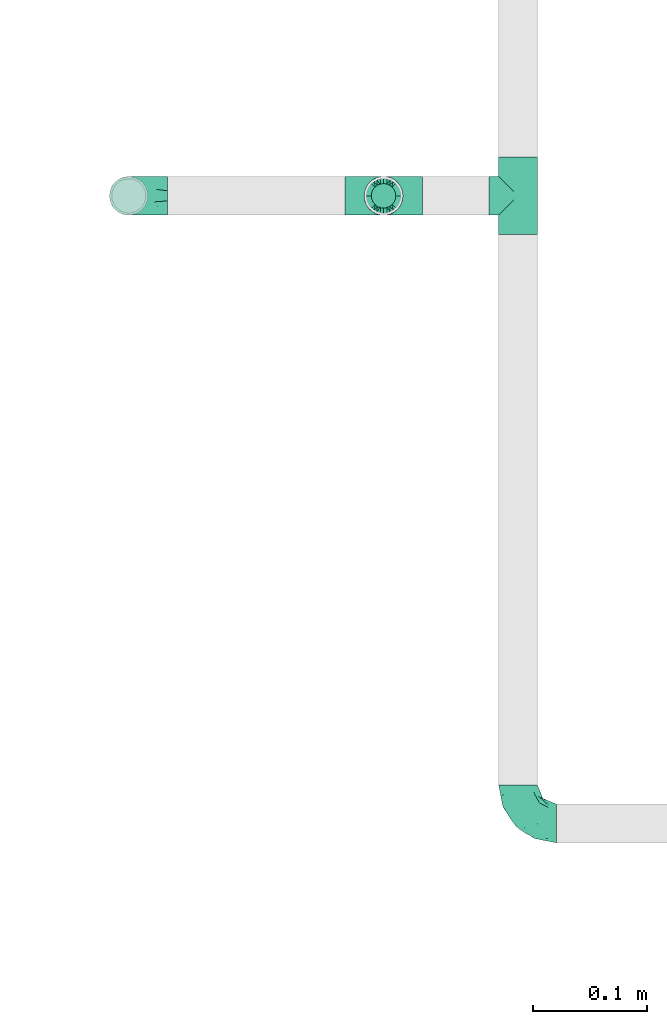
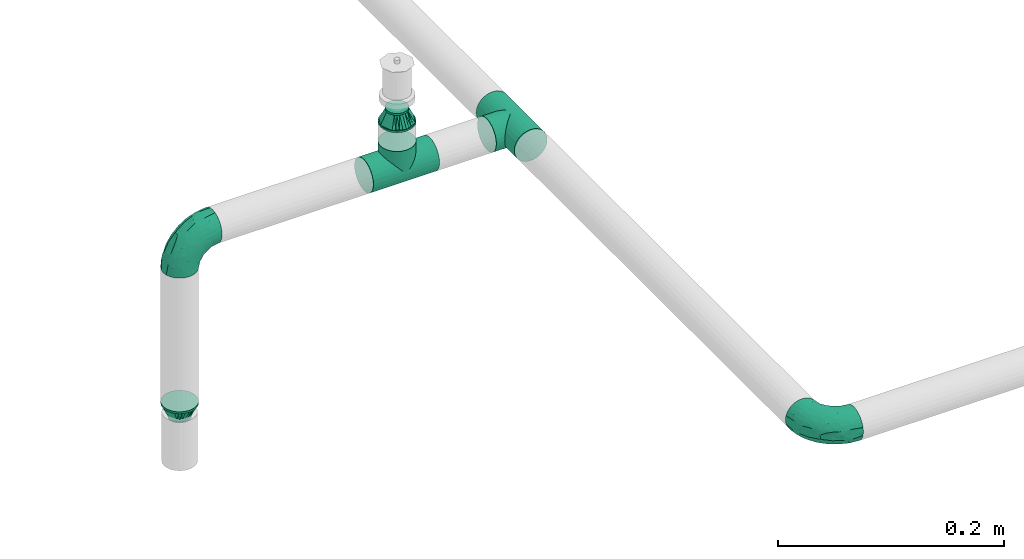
# One storey, part 136 of 157: 6 flow fittings.
"""IFC2X3 building model written with IfcOpenShell, lengths in millimetres."""

from ifc_helpers import new_model, entity, si_unit, converted_unit, derived_unit, direction, frame, origin_with_axes, place, context, subcontext, project, spatial, open_shell, surface_model, source, transform, mapped, type_object, element, save


model = new_model("IFC2X3")

# Units and contexts
model_context = context("Model", 3, precision=0.01, world=frame((0.0, 4.29681676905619e-09, 0.0)), true_north=direction((4.01073788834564e-13, 1.0)))
plan_context = context("Plan", 3, precision=0.01, world=frame((0.0, 4.29681676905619e-09, 0.0)), true_north=direction((4.01073788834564e-13, 1.0)))
body_context = subcontext(model_context, "Body", "Model", "MODEL_VIEW")
ifc_project = project(units=[converted_unit("PLANEANGLEUNIT", "DEGREE", entity("IfcPositiveLengthMeasure", 0.0174532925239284), si_unit("PLANEANGLEUNIT", "RADIAN"), dimensions=[0, 0, 0, 0, 0, 0, 0]), si_unit("AREAUNIT", "SQUARE_METRE"), si_unit("LENGTHUNIT", "METRE", prefix="MILLI"), si_unit("MASSUNIT", "GRAM", prefix="KILO"), si_unit("POWERUNIT", "WATT"), si_unit("PRESSUREUNIT", "PASCAL"), si_unit("FORCEUNIT", "NEWTON", prefix="KILO"), si_unit("ELECTRICCURRENTUNIT", "AMPERE"), si_unit("THERMODYNAMICTEMPERATUREUNIT", "DEGREE_CELSIUS"), si_unit("TIMEUNIT", "SECOND"), si_unit("VOLUMEUNIT", "CUBIC_METRE"), derived_unit("LINEARVELOCITYUNIT", [(si_unit("LENGTHUNIT", "METRE"), 1), (si_unit("TIMEUNIT", "SECOND"), -1)]), derived_unit("VOLUMETRICFLOWRATEUNIT", [(si_unit("VOLUMEUNIT", "CUBIC_METRE"), 1), (si_unit("TIMEUNIT", "SECOND"), -1)]), derived_unit("THERMALTRANSMITTANCEUNIT", [(si_unit("POWERUNIT", "WATT"), 1), (si_unit("THERMODYNAMICTEMPERATUREUNIT", "KELVIN"), -1), (si_unit("AREAUNIT", "SQUARE_METRE"), -1)])], contexts=[model_context, plan_context])

# Site, building, storey
site_placement = place(None, frame((0.0, -4.29681676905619e-09, 0.0), z_axis=(0.0, 0.0, 1.0), x_axis=(1.0, 0.0, 0.0)))
site = spatial("IfcSite", under=ifc_project, at=site_placement, CompositionType="ELEMENT")
building_placement = place(site_placement, frame((0.0, 4.29681676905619e-09, 0.0), z_axis=(0.0, 0.0, 1.0), x_axis=(1.0, 0.0, 0.0)))
building = spatial("IfcBuilding", under=site, at=building_placement, Name="mc-building", CompositionType="ELEMENT")
storey_placement = place(building_placement, frame((0.0, 0.0, 204000.0), z_axis=(0.0, 0.0, 1.0), x_axis=(1.0, 0.0, 0.0)))
storey = spatial("IfcBuildingStorey", under=building, at=storey_placement, Name="Nivå D", CompositionType="ELEMENT", Elevation=204000.0)

# Flow fittings
pipe_fitting_type_1 = type_object("IfcPipeFittingType", Name="magi_pipe_fe_tee_centric_90_NOR", PredefinedType="JUNCTION")
shared_shape_1 = source(origin_with_axes(), body_context, "Body", "SurfaceModel", [
    surface_model("IfcShellBasedSurfaceModel", [(-33.8, 4.37404, -16.32415), (-33.8, 0.0, -16.9), (-33.8, 16.32415, -4.37404), (-33.8, 8.45, -14.63583), (-33.8, 11.9501, -11.9501), (-33.8, 14.63583, -8.45), (-33.8, -16.9, 0.0), (-33.8, -11.9501, -11.9501), (-33.8, -14.63583, -8.45), (-33.8, -8.45, -14.63583), (-33.8, -4.37404, -16.32415), (-33.8, -16.32415, -4.37404), (-33.8, 14.63583, 8.45), (-33.8, 16.32415, 4.37404), (-33.8, -8.45, 14.63583), (-33.8, 8.45, 14.63583), (-33.8, 11.9501, 11.9501), (-33.8, 4.37404, 16.32415), (-33.8, 0.0, 16.9), (-33.8, -11.9501, 11.9501), (-33.8, -14.63583, 8.45), (-33.8, -16.32415, 4.37404), (-33.8, -4.37404, 16.32415), (-33.8, 16.9, 0.0), (33.8, 4.37404, -16.32415), (33.8, -16.9, 0.0), (33.8, 0.0, -16.9), (33.8, 14.63583, -8.45), (33.8, 8.45, -14.63583), (33.8, 16.32415, -4.37404), (33.8, 11.9501, -11.9501), (33.8, -16.32415, 4.37404), (33.8, -8.45, -14.63583), (33.8, -4.37404, -16.32415), (33.8, -11.9501, -11.9501), (33.8, -14.63583, -8.45), (33.8, -16.32415, -4.37404), (33.8, 16.32415, 4.37404), (33.8, 8.45, 14.63583), (33.8, 14.63583, 8.45), (33.8, 11.9501, 11.9501), (33.8, -8.45, 14.63583), (33.8, 4.37404, 16.32415), (33.8, -14.63583, 8.45), (33.8, -11.9501, 11.9501), (33.8, 0.0, 16.9), (33.8, -4.37404, 16.32415), (33.8, 16.9, 0.0), (16.28698, -16.28698, 4.51047), (16.9, -16.9, 0.0), (14.62704, -14.62704, 8.4652), (9.47213, -9.47213, 13.99602), (12.26343, -12.26343, 11.62834), (-16.9, -16.9, 0.0), (-16.28698, -16.28698, 4.51047), (-14.62704, -14.62704, 8.4652), (-12.26343, -12.26343, 11.62834), (-9.47213, -9.47213, 13.99602), (-6.42894, -6.42894, 15.62942), (6.42894, -6.42894, 15.62942), (3.24522, -3.24522, 16.58549), (0.0, 0.0, 16.9), (-3.24522, -3.24522, 16.58549), (3.24522, -3.24522, -16.58549), (0.0, 0.0, -16.9), (-3.24522, -3.24522, -16.58549), (-6.42894, -6.42894, -15.62942), (6.42894, -6.42894, -15.62942), (9.47213, -9.47213, -13.99602), (12.26343, -12.26343, -11.62834), (14.62704, -14.62704, -8.4652), (16.28698, -16.28698, -4.51047), (-9.47213, -9.47213, -13.99602), (-12.26343, -12.26343, -11.62834), (-16.28698, -16.28698, -4.51047), (-14.62704, -14.62704, -8.4652), (4.37404, -25.35, -16.32415), (-16.9, -25.35, 0.0), (0.0, -25.35, -16.9), (14.63583, -25.35, -8.45), (8.45, -25.35, -14.63583), (16.32415, -25.35, -4.37404), (11.9501, -25.35, -11.9501), (-11.9501, -25.35, -11.9501), (-8.45, -25.35, -14.63583), (-4.37404, -25.35, -16.32415), (-14.63583, -25.35, -8.45), (-16.32415, -25.35, -4.37404), (16.9, -25.35, 0.0), (8.45, -25.35, 14.63583), (16.32415, -25.35, 4.37404), (14.63583, -25.35, 8.45), (-8.45, -25.35, 14.63583), (11.9501, -25.35, 11.9501), (4.37404, -25.35, 16.32415), (-16.32415, -25.35, 4.37404), (-11.9501, -25.35, 11.9501), (-14.63583, -25.35, 8.45), (0.0, -25.35, 16.9), (-4.37404, -25.35, 16.32415)], [open_shell([[[0, 1, 2]], [[3, 0, 4]], [[0, 2, 5]], [[4, 0, 5]], [[6, 2, 1]], [[7, 8, 9]], [[1, 10, 9]], [[11, 6, 8]], [[1, 9, 8]], [[1, 8, 6]], [[6, 12, 2]], [[12, 13, 2]], [[14, 12, 6]], [[12, 14, 15]], [[16, 12, 15]], [[17, 15, 18]], [[19, 14, 20]], [[21, 20, 14]], [[22, 18, 14]], [[14, 6, 21]], [[14, 18, 15]], [[23, 2, 13]], [[24, 25, 26]], [[27, 24, 28]], [[27, 29, 24]], [[27, 28, 30]], [[31, 25, 24]], [[26, 32, 33]], [[26, 34, 32]], [[35, 25, 36]], [[35, 34, 26]], [[25, 35, 26]], [[24, 29, 31]], [[29, 37, 38]], [[38, 37, 39]], [[38, 31, 29]], [[38, 39, 40]], [[41, 38, 42]], [[43, 41, 44]], [[41, 43, 31]], [[41, 45, 46]], [[41, 31, 38]], [[42, 45, 41]], [[29, 47, 37]], [[31, 43, 48]], [[25, 31, 49]], [[49, 31, 48]], [[43, 50, 48]], [[44, 41, 51]], [[50, 43, 52]], [[51, 52, 44]], [[52, 43, 44]], [[53, 54, 21]], [[53, 21, 6]], [[21, 54, 20]], [[54, 55, 20]], [[56, 57, 19]], [[19, 20, 56]], [[19, 57, 14]], [[56, 20, 55]], [[14, 57, 58]], [[51, 41, 59]], [[60, 45, 61]], [[59, 46, 60]], [[46, 59, 41]], [[60, 46, 45]], [[61, 45, 42]], [[39, 37, 13]], [[16, 38, 40]], [[12, 40, 39]], [[42, 38, 15]], [[23, 37, 47]], [[62, 61, 18]], [[62, 22, 58]], [[22, 62, 18]], [[58, 22, 14]], [[61, 17, 18]], [[42, 17, 61]], [[15, 17, 42]], [[15, 38, 16]], [[12, 16, 40]], [[13, 12, 39]], [[37, 23, 13]], [[5, 27, 30]], [[23, 47, 29]], [[30, 28, 3]], [[27, 2, 29]], [[26, 33, 63]], [[26, 64, 24]], [[64, 26, 63]], [[28, 24, 0]], [[64, 0, 24]], [[4, 30, 3]], [[2, 27, 5]], [[5, 30, 4]], [[2, 23, 29]], [[65, 66, 10]], [[1, 0, 64]], [[1, 65, 10]], [[66, 9, 10]], [[0, 3, 28]], [[1, 64, 65]], [[63, 33, 67]], [[32, 34, 68]], [[69, 68, 34]], [[35, 70, 69]], [[69, 34, 35]], [[32, 68, 67]], [[36, 25, 49]], [[36, 71, 35]], [[71, 36, 49]], [[35, 71, 70]], [[72, 9, 66]], [[72, 7, 9]], [[7, 72, 73]], [[7, 73, 8]], [[74, 53, 11]], [[75, 74, 8]], [[74, 11, 8]], [[11, 53, 6]], [[75, 8, 73]], [[32, 67, 33]], [[76, 77, 78]], [[79, 76, 80]], [[79, 81, 76]], [[79, 80, 82]], [[77, 76, 81]], [[78, 83, 84]], [[84, 85, 78]], [[86, 77, 87]], [[83, 78, 86]], [[77, 86, 78]], [[81, 88, 77]], [[89, 88, 90]], [[89, 90, 91]], [[92, 77, 89]], [[89, 91, 93]], [[92, 89, 94]], [[95, 96, 97]], [[96, 95, 92]], [[92, 98, 99]], [[95, 77, 92]], [[94, 98, 92]], [[89, 77, 88]], [[77, 95, 53]], [[54, 53, 95]], [[97, 96, 56]], [[96, 92, 57]], [[95, 97, 54]], [[58, 92, 99]], [[55, 54, 97]], [[56, 55, 97]], [[58, 57, 92]], [[98, 61, 62]], [[58, 99, 62]], [[56, 96, 57]], [[62, 99, 98]], [[94, 60, 98]], [[89, 59, 94]], [[91, 90, 48]], [[52, 93, 91]], [[93, 51, 89]], [[49, 90, 88]], [[59, 60, 94]], [[51, 59, 89]], [[49, 48, 90]], [[50, 52, 91]], [[48, 50, 91]], [[51, 93, 52]], [[98, 60, 61]], [[88, 81, 49]], [[71, 49, 81]], [[79, 82, 69]], [[82, 80, 68]], [[81, 79, 71]], [[67, 80, 76]], [[70, 71, 79]], [[69, 70, 79]], [[67, 68, 80]], [[78, 64, 63]], [[67, 76, 63]], [[69, 82, 68]], [[63, 76, 78]], [[85, 65, 78]], [[84, 66, 85]], [[86, 87, 74]], [[86, 73, 83]], [[72, 84, 83]], [[53, 87, 77]], [[66, 65, 85]], [[72, 66, 84]], [[53, 74, 87]], [[75, 73, 86]], [[74, 75, 86]], [[72, 83, 73]], [[78, 65, 64]]])]),
])
for number, where, z_axis, x_axis, name in (
    (1, (522050.72244, 418905.77171, 2689.95572999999), (0.0, -1.0, 0.0), (-1.0, 0.0, 0.0), "magi_pipe_fe_tee_centric_90_NOR"),
    (2, (522168.12782, 418905.77171, 2689.95572999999), (0.0, 0.0, -1.0), (0.0, 1.0, 0.0), "magi_pipe_fe_tee_centric_90_NOR"),
):
    element("IfcFlowFitting", number, at=place(storey_placement, frame(where, z_axis=z_axis, x_axis=x_axis)), inside=storey, type_object=pipe_fitting_type_1, Name=name, context=body_context, shape_type="MappedRepresentation", body=[
        mapped(shared_shape_1, transform((0.0, 0.0, 0.0), scale=1.0)),
    ])
pipe_fitting_type_2 = type_object("IfcPipeFittingType", Name="magi_pipe_fe_reducer_centric_short_NOR", PredefinedType="TRANSITION")
shared_shape_2 = source(origin_with_axes(), body_context, "Body", "SurfaceModel", [
    surface_model("IfcShellBasedSurfaceModel", [(14.4, 5.35, -9.26647), (14.4, 0.0, -10.7), (14.4, 2.76936, -10.33541), (14.4, 10.33541, -2.76936), (14.4, 7.56604, -7.56604), (14.4, -10.33541, -2.76936), (14.4, 9.26647, -5.35), (14.4, 0.0, 10.7), (14.4, -5.35, -9.26647), (14.4, -2.76936, -10.33541), (14.4, -7.56604, -7.56604), (14.4, -9.26647, -5.35), (14.4, 10.7, 0.0), (14.4, 10.33541, 2.76936), (14.4, 9.26647, 5.35), (14.4, 7.56604, 7.56604), (14.4, 2.76936, 10.33541), (14.4, 5.35, 9.26647), (14.4, -10.33541, 2.76936), (14.4, -7.56604, 7.56604), (14.4, -9.26647, 5.35), (14.4, -10.7, 0.0), (14.4, -2.76936, 10.33541), (14.4, -5.35, 9.26647), (12.4, 2.76936, 10.33541), (12.4, -10.33541, -2.76936), (12.4, 0.0, 10.7), (12.4, 5.35, 9.26647), (12.4, 7.56604, 7.56604), (12.4, 9.26647, 5.35), (12.4, 10.33541, 2.76936), (12.4, -10.33541, 2.76936), (12.4, -2.76936, 10.33541), (12.4, -7.56604, 7.56604), (12.4, -5.35, 9.26647), (12.4, -9.26647, 5.35), (12.4, -10.7, 0.0), (12.4, 10.33541, -2.76936), (12.4, 5.35, -9.26647), (12.4, 9.26647, -5.35), (12.4, 7.56604, -7.56604), (12.4, 2.76936, -10.33541), (12.4, -9.26647, -5.35), (12.4, -5.35, -9.26647), (12.4, -7.56604, -7.56604), (12.4, 0.0, -10.7), (12.4, -2.76936, -10.33541), (12.4, 10.7, 0.0), (-2.0, 11.9501, 11.9501), (-2.0, 0.0, 16.9), (-2.0, 4.37404, 16.32415), (-2.0, 8.45, 14.63583), (-2.0, 14.63583, 8.45), (-2.0, 16.32415, 4.37404), (-2.0, -16.32415, 4.37404), (-2.0, -8.45, 14.63583), (-2.0, -14.63583, 8.45), (-2.0, -11.9501, 11.9501), (-2.0, -4.37404, 16.32415), (-2.0, -16.32415, -4.37404), (-2.0, -16.9, 0.0), (-2.0, -8.45, -14.63583), (-2.0, 16.32415, -4.37404), (-2.0, 11.9501, -11.9501), (-2.0, 14.63583, -8.45), (-2.0, 8.45, -14.63583), (-2.0, 4.37404, -16.32415), (-2.0, 0.0, -16.9), (-2.0, -11.9501, -11.9501), (-2.0, -14.63583, -8.45), (-2.0, -4.37404, -16.32415), (-2.0, 16.9, 0.0), (0.0, 4.37404, -16.32415), (0.0, 8.45, -14.63583), (0.0, 11.9501, -11.9501), (0.0, 0.0, -16.9), (0.0, 16.32415, -4.37404), (0.0, 16.32415, 4.37404), (0.0, 14.63583, -8.45), (0.0, -8.45, -14.63583), (0.0, -4.37404, -16.32415), (0.0, -11.9501, -11.9501), (0.0, -16.32415, -4.37404), (0.0, -14.63583, -8.45), (0.0, -16.32415, 4.37404), (0.0, 16.9, 0.0), (0.0, 14.63583, 8.45), (0.0, 11.9501, 11.9501), (0.0, 4.37404, 16.32415), (0.0, 8.45, 14.63583), (0.0, 0.0, 16.9), (0.0, -14.63583, 8.45), (0.0, -16.9, 0.0), (0.0, -8.45, 14.63583), (0.0, -11.9501, 11.9501), (0.0, -4.37404, 16.32415), (12.4, 9.3625, -2.31662), (0.0, 14.42505, -5.97505), (0.0, 15.66253, -2.98753), (12.4, -6.6875, -6.94985), (0.0, -13.18758, -8.96258), (0.0, 2.98753, -15.66253), (12.4, 0.0, -9.26647), (12.4, 6.6875, -6.94985), (0.0, 8.96258, -13.18758), (12.4, -9.3625, -2.31662), (0.0, -15.66253, -2.98753), (0.0, -14.42505, -5.97505), (0.0, 5.97505, -14.42505), (0.0, -2.98753, -15.66253), (0.0, -8.96258, -13.18758), (0.0, 13.18758, -8.96258), (12.4, 8.025, -4.63324), (12.4, -2.675, -9.26647), (12.4, 2.675, -9.26647), (0.0, -5.97505, -14.42505), (12.4, -8.025, -4.63324), (12.4, -9.3625, 2.31662), (0.0, -14.42505, 5.97505), (0.0, -15.66253, 2.98753), (12.4, 6.6875, 6.94985), (0.0, 13.18758, 8.96258), (0.0, -2.98753, 15.66253), (12.4, 0.0, 9.26647), (12.4, -6.6875, 6.94985), (0.0, -8.96258, 13.18758), (12.4, 9.3625, 2.31662), (0.0, 15.66253, 2.98753), (0.0, 14.42505, 5.97505), (0.0, -5.97505, 14.42505), (0.0, 2.98753, 15.66253), (0.0, 8.96258, 13.18758), (0.0, -13.18758, 8.96258), (12.4, -8.025, 4.63324), (12.4, 2.675, 9.26647), (12.4, -2.675, 9.26647), (0.0, 5.97505, 14.42505), (12.4, 8.025, 4.63324)], [open_shell([[[0, 1, 2]], [[3, 0, 4]], [[5, 0, 3]], [[3, 4, 6]], [[7, 5, 3]], [[1, 8, 9]], [[1, 0, 8]], [[10, 5, 11]], [[5, 10, 8]], [[0, 5, 8]], [[3, 12, 13]], [[13, 14, 15]], [[13, 15, 16]], [[7, 3, 16]], [[16, 15, 17]], [[7, 18, 5]], [[18, 19, 20]], [[21, 5, 18]], [[19, 22, 23]], [[22, 19, 18]], [[7, 22, 18]], [[13, 16, 3]], [[24, 25, 26]], [[27, 25, 24]], [[28, 29, 30]], [[28, 25, 27]], [[31, 26, 25]], [[32, 33, 34]], [[33, 32, 31]], [[33, 31, 35]], [[32, 26, 31]], [[31, 25, 36]], [[30, 37, 28]], [[25, 28, 37]], [[38, 37, 39]], [[37, 38, 25]], [[38, 39, 40]], [[41, 25, 38]], [[42, 43, 44]], [[43, 42, 25]], [[43, 45, 46]], [[43, 25, 41]], [[41, 45, 43]], [[37, 30, 47]], [[25, 5, 36]], [[42, 11, 25]], [[8, 44, 43]], [[42, 44, 10]], [[9, 43, 46]], [[25, 11, 5]], [[5, 21, 36]], [[9, 8, 43]], [[10, 44, 8]], [[10, 11, 42]], [[1, 9, 46]], [[46, 45, 1]], [[41, 2, 45]], [[38, 0, 41]], [[6, 40, 39]], [[38, 40, 4]], [[3, 39, 37]], [[38, 4, 0]], [[0, 2, 41]], [[12, 3, 37]], [[6, 39, 3]], [[6, 4, 40]], [[47, 12, 37]], [[45, 2, 1]], [[30, 13, 47]], [[29, 14, 30]], [[17, 28, 27]], [[29, 28, 15]], [[16, 27, 24]], [[30, 14, 13]], [[13, 12, 47]], [[16, 17, 27]], [[15, 28, 17]], [[15, 14, 29]], [[7, 16, 24]], [[24, 26, 7]], [[32, 22, 26]], [[34, 23, 32]], [[20, 33, 35]], [[34, 33, 19]], [[18, 35, 31]], [[34, 19, 23]], [[23, 22, 32]], [[21, 18, 31]], [[20, 35, 18]], [[20, 19, 33]], [[36, 21, 31]], [[26, 22, 7]], [[48, 49, 50]], [[48, 50, 51]], [[48, 52, 53]], [[48, 53, 49]], [[49, 53, 54]], [[55, 56, 57]], [[55, 58, 49]], [[56, 55, 49]], [[49, 54, 56]], [[54, 59, 60]], [[54, 53, 61]], [[53, 62, 63]], [[63, 62, 64]], [[63, 65, 66]], [[61, 53, 63]], [[67, 63, 66]], [[59, 68, 69]], [[68, 59, 61]], [[61, 67, 70]], [[59, 54, 61]], [[63, 67, 61]], [[53, 71, 62]], [[72, 73, 74]], [[75, 72, 74]], [[74, 76, 77]], [[76, 74, 78]], [[74, 77, 79]], [[75, 79, 80]], [[75, 74, 79]], [[81, 82, 83]], [[82, 81, 79]], [[79, 84, 82]], [[77, 76, 85]], [[77, 86, 87]], [[77, 87, 88]], [[88, 84, 79]], [[88, 87, 89]], [[84, 88, 90]], [[90, 91, 84]], [[92, 82, 84]], [[91, 93, 94]], [[91, 90, 93]], [[93, 90, 95]], [[79, 77, 88]], [[59, 82, 60]], [[69, 83, 59]], [[79, 68, 61]], [[69, 68, 81]], [[80, 61, 70]], [[59, 83, 82]], [[82, 92, 60]], [[80, 79, 61]], [[81, 68, 79]], [[81, 83, 69]], [[75, 80, 70]], [[70, 67, 75]], [[66, 72, 67]], [[65, 73, 66]], [[78, 63, 64]], [[65, 63, 74]], [[76, 64, 62]], [[65, 74, 73]], [[73, 72, 66]], [[85, 76, 62]], [[78, 64, 76]], [[78, 74, 63]], [[71, 85, 62]], [[67, 72, 75]], [[53, 77, 71]], [[52, 86, 53]], [[89, 48, 51]], [[52, 48, 87]], [[88, 51, 50]], [[53, 86, 77]], [[77, 85, 71]], [[88, 89, 51]], [[87, 48, 89]], [[87, 86, 52]], [[90, 88, 50]], [[50, 49, 90]], [[58, 95, 49]], [[55, 93, 58]], [[91, 57, 56]], [[55, 57, 94]], [[84, 56, 54]], [[55, 94, 93]], [[93, 95, 58]], [[92, 84, 54]], [[91, 56, 84]], [[91, 94, 57]], [[60, 92, 54]], [[49, 95, 90]], [[27, 34, 47]], [[47, 34, 43]], [[43, 38, 47]], [[43, 34, 36]], [[90, 87, 94]], [[92, 94, 87]], [[87, 74, 92]], [[75, 92, 74]], [[81, 92, 75]], [[74, 87, 85]], [[96, 97, 98]], [[81, 99, 100]], [[101, 102, 75]], [[98, 85, 47]], [[74, 103, 104]], [[104, 103, 38]], [[105, 106, 107]], [[38, 108, 104]], [[102, 109, 75]], [[110, 99, 81]], [[47, 96, 98]], [[103, 111, 112]], [[109, 102, 113]], [[36, 92, 106]], [[102, 101, 114]], [[110, 115, 43]], [[96, 112, 97]], [[107, 116, 105]], [[36, 106, 105]], [[113, 115, 109]], [[43, 115, 113]], [[116, 107, 100]], [[108, 38, 114]], [[111, 103, 74]], [[111, 97, 112]], [[99, 110, 43]], [[116, 100, 99]], [[101, 108, 114]], [[117, 118, 119]], [[87, 120, 121]], [[122, 123, 90]], [[119, 92, 36]], [[94, 124, 125]], [[125, 124, 34]], [[126, 127, 128]], [[34, 129, 125]], [[123, 130, 90]], [[131, 120, 87]], [[36, 117, 119]], [[124, 132, 133]], [[130, 123, 134]], [[47, 85, 127]], [[123, 122, 135]], [[131, 136, 27]], [[117, 133, 118]], [[128, 137, 126]], [[47, 127, 126]], [[134, 136, 130]], [[27, 136, 134]], [[137, 128, 121]], [[129, 34, 135]], [[132, 124, 94]], [[132, 118, 133]], [[120, 131, 27]], [[137, 121, 120]], [[122, 129, 135]]])]),
])
for number, where, z_axis, x_axis, name in (
    (3, (522050.72244, 418905.77171, 2737.70483), (0.0, -1.0, 0.0), (0.0, 0.0, 1.0), "magi_pipe_fe_reducer_centric_short_NOR"),
    (4, (521828.12782, 418905.77171, 2509.35200000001), (0.0, -1.0, 0.0), (0.0, 0.0, -1.0), "magi_pipe_fe_reducer_centric_short_NOR"),
):
    element("IfcFlowFitting", number, at=place(storey_placement, frame(where, z_axis=z_axis, x_axis=x_axis)), inside=storey, type_object=pipe_fitting_type_2, Name=name, context=body_context, shape_type="MappedRepresentation", body=[
        mapped(shared_shape_2, transform((0.0, 0.0, 0.0), scale=1.0)),
    ])
pipe_fitting_type_3 = type_object("IfcPipeFittingType", Name="magi_pipe_fe_elbow_short_001", PredefinedType="BEND")
shared_shape_3 = source(origin_with_axes(), body_context, "Body", "SurfaceModel", [
    surface_model("IfcShellBasedSurfaceModel", [(-33.8, 8.45, -14.63583), (-33.8, 4.37404, -16.32415), (-33.8, 11.9501, -11.9501), (-33.8, -11.9501, -11.9501), (-33.8, -14.63583, -8.45), (-33.8, -8.45, -14.63583), (-33.8, 0.0, -16.9), (-33.8, -4.37404, -16.32415), (-33.8, -4.37404, 16.32415), (-33.8, 0.0, 16.9), (-33.8, -8.45, 14.63583), (-33.8, 16.32415, -4.37404), (-33.8, 14.63583, -8.45), (-33.8, -16.32415, -4.37404), (-33.8, -16.9, 0.0), (-33.8, -16.32415, 4.37404), (-33.8, 11.9501, 11.9501), (-33.8, 14.63583, 8.45), (-33.8, 16.32415, 4.37404), (-33.8, 4.37404, 16.32415), (-33.8, 8.45, 14.63583), (-33.8, -14.63583, 8.45), (-33.8, -11.9501, 11.9501), (-33.8, 16.9, 0.0), (-11.9501, 33.8, -11.9501), (0.0, 33.8, -16.9), (-4.37404, 33.8, -16.32415), (-8.45, 33.8, -14.63583), (-14.63583, 33.8, -8.45), (-16.32415, 33.8, -4.37404), (14.63583, 33.8, -8.45), (8.45, 33.8, 14.63583), (16.32415, 33.8, -4.37404), (8.45, 33.8, -14.63583), (11.9501, 33.8, -11.9501), (4.37404, 33.8, -16.32415), (16.32415, 33.8, 4.37404), (16.9, 33.8, 0.0), (-11.9501, 33.8, 11.9501), (-16.32415, 33.8, 4.37404), (-14.63583, 33.8, 8.45), (-8.45, 33.8, 14.63583), (-4.37404, 33.8, 16.32415), (11.9501, 33.8, 11.9501), (14.63583, 33.8, 8.45), (0.0, 33.8, 16.9), (4.37404, 33.8, 16.32415), (-16.9, 33.8, 0.0), (-24.79389, -13.12945, 9.48721), (-22.19287, -9.75018, 12.59315), (-24.09897, -14.97035, 0.0), (-14.93934, -10.76256, 8.5297), (-22.46095, -14.75051, 5.27077), (14.75051, 22.46094, 5.27077), (11.9251, 13.23888, 4.33236), (13.04069, 14.39795, 0.0), (7.71387, 13.68847, 11.55891), (9.75018, 22.19287, 12.59315), (4.10169, 13.0571, 14.04018), (-24.84007, -6.39063, 15.2048), (-25.81779, -2.23879, 16.61097), (-23.66549, 2.59054, 16.87119), (-26.50418, 14.06512, 11.08152), (-24.21253, 17.66365, 7.72657), (-29.58514, 15.86957, 7.00283), (-6.17382, -7.5455, 0.0), (-13.23888, -11.9251, 4.33236), (-14.39795, -13.04069, 0.0), (-17.81434, 18.87373, 11.97104), (-6.30846, 29.15138, 15.82987), (-2.31622, 25.28002, 16.85849), (-29.23923, 10.23435, 13.77053), (-1.45439, -2.85688, 7.61475), (-0.28326, 0.34872, 10.09509), (-5.74484, -4.04709, 10.4122), (-4.41137, 11.31918, 16.59407), (-8.39727, 3.10034, 15.7812), (-1.72649, 9.1306, 15.53089), (-17.39909, 24.75344, 7.64977), (-26.19233, 20.0512, 0.0), (-28.14518, 17.29657, 4.25857), (-26.05147, 6.6281, 15.96447), (-5.87354, 16.61944, 16.86968), (-12.51807, 12.51807, 16.48937), (-10.06312, 7.38516, 16.81295), (-3.01882, 3.01882, 13.81718), (-13.0571, -4.10169, 14.04018), (-16.82553, -0.15166, 16.38038), (10.76256, 14.93934, 8.5297), (13.12945, 24.79389, 9.48721), (6.39063, 24.84007, 15.2048), (2.23879, 25.81779, 16.61097), (-13.68847, -7.71387, 11.55891), (14.97035, 24.09897, 0.0), (-7.30894, 22.89991, 16.09489), (-10.67958, 26.17414, 14.008), (-12.78295, 18.26924, 15.06066), (-13.88562, 22.45231, 12.93244), (-18.04944, 15.16501, 14.04434), (-23.11658, 20.08178, 4.02986), (-21.84989, 21.84989, 0.0), (-18.55817, 25.48277, 3.93065), (-13.95142, 26.94732, 11.03289), (-18.57098, 7.23906, 16.59756), (-16.58335, 4.14122, 16.89279), (-17.96666, 11.46709, 15.63151), (-9.84453, 17.54304, 16.18938), (0.15166, 16.82553, 16.38038), (-23.27207, 11.47201, 14.23154), (3.84842, 5.86994, 10.70473), (-8.0212, -7.54413, 7.93275), (1.00345, -2.19508, 4.57414), (5.13203, 3.01004, 5.90201), (5.24161, 1.7543, 2.53265), (8.70457, 7.04947, 3.99182), (-20.0512, 26.19233, 0.0), (8.4852, 8.76699, 7.09296), (-4.55488, -6.72064, 4.90681), (2.05031, -2.05031, 0.0), (7.5455, 6.17382, 0.0), (-26.75399, 2.1369, -16.845), (-14.61995, 24.73803, -11.27736), (-28.45274, -13.45335, -9.81895), (-26.00469, 6.63555, -15.96645), (-23.06726, 20.04573, -4.26202), (-13.80647, -4.26506, -14.17873), (-14.67501, -0.21081, -16.07388), (-6.7902, -0.2828, -13.8478), (-24.53586, 11.08096, -14.13417), (-26.72048, 14.00837, -11.05776), (10.0967, 24.44989, -12.75976), (5.83237, 21.40218, -15.03047), (6.66249, 28.54238, -15.38093), (-20.38182, 15.48705, -12.74596), (12.53268, 21.23441, -9.15363), (12.54494, 15.67504, -5.54878), (9.7522, 12.89279, -8.66343), (-15.65186, 19.64213, -13.01327), (-12.03528, 20.66498, -14.67665), (-15.61907, 15.61906, -14.83879), (-25.56551, -15.26206, 0.0), (-24.65452, -15.12934, -5.50955), (13.45335, 28.45274, -9.81895), (15.12934, 24.65452, -5.50955), (-7.35442, -8.31014, -5.65563), (-15.67504, -12.54494, -5.54878), (-24.44989, -10.0967, -12.75976), (0.16522, 0.41303, -9.71728), (-5.70658, -5.33066, -8.89288), (-5.13869, -2.37198, -11.53565), (-21.23441, -12.53268, -9.15363), (0.71146, 7.93863, -14.09382), (0.21081, 14.67501, -16.07388), (3.49291, 14.42772, -14.76381), (-24.89911, -2.13088, -16.591), (-28.54238, -6.66249, -15.38093), (-18.44386, -7.71663, -13.26957), (2.13088, 24.89911, -16.591), (-28.64342, 17.44413, -2.89318), (1.70017, -1.28722, -5.09504), (-16.57067, 26.81947, -7.36596), (-17.69055, 27.4263, -3.76405), (-12.89279, -9.7522, -8.66343), (-5.96611, 5.96611, -15.95814), (-20.53709, 20.09345, -8.28985), (-2.1369, 26.75399, -16.845), (-6.89872, 24.58781, -16.02578), (-10.60739, 26.53157, -13.98044), (-21.40218, -5.83237, -15.03047), (2.93192, 5.89627, -11.55917), (6.89393, 12.61842, -11.82233), (5.58056, 5.95325, -8.79455), (-3.99512, 18.61798, -16.89635), (8.31014, 7.35442, -5.65563), (-9.1383, 9.86148, -16.89041), (-9.99983, 16.02119, -16.39699), (-16.68576, 9.78031, -16.34199), (-27.01915, 16.61158, -7.12979), (15.26206, 25.56551, 0.0), (-18.61798, 3.99512, -16.89635), (-19.37495, 27.82495, 0.0), (-12.61842, -6.89393, -11.82233), (-18.84705, 19.14018, -10.96545)], [open_shell([[[0, 1, 2]], [[3, 4, 5]], [[6, 7, 5]], [[8, 9, 10]], [[1, 6, 2]], [[11, 12, 2]], [[4, 2, 6]], [[2, 13, 10]], [[5, 4, 6]], [[2, 4, 13]], [[14, 15, 13]], [[11, 2, 16]], [[11, 17, 18]], [[11, 16, 17]], [[19, 20, 16]], [[16, 2, 10]], [[19, 16, 10]], [[21, 22, 15]], [[22, 13, 15]], [[22, 10, 13]], [[10, 9, 19]], [[11, 18, 23]], [[24, 25, 26]], [[24, 26, 27]], [[24, 28, 29]], [[25, 24, 30]], [[31, 32, 24]], [[33, 30, 34]], [[33, 35, 25]], [[25, 30, 33]], [[32, 30, 24]], [[32, 36, 37]], [[38, 24, 29]], [[39, 40, 29]], [[40, 38, 29]], [[38, 41, 42]], [[38, 31, 24]], [[31, 38, 42]], [[36, 43, 44]], [[36, 32, 43]], [[31, 45, 46]], [[32, 31, 43]], [[42, 45, 31]], [[39, 29, 47]], [[22, 48, 49]], [[15, 14, 50]], [[51, 48, 52]], [[53, 54, 55]], [[48, 22, 21]], [[15, 52, 21]], [[56, 57, 58]], [[49, 10, 22]], [[49, 59, 10]], [[9, 60, 61]], [[62, 63, 64]], [[65, 66, 67]], [[57, 43, 31]], [[62, 68, 63]], [[42, 69, 70]], [[20, 71, 16]], [[8, 60, 9]], [[72, 73, 74]], [[75, 76, 77]], [[16, 62, 17]], [[40, 39, 78]], [[79, 23, 80]], [[64, 18, 17]], [[9, 61, 19]], [[19, 81, 20]], [[82, 83, 84]], [[74, 85, 86]], [[59, 86, 87]], [[88, 89, 57]], [[90, 31, 46]], [[44, 53, 36]], [[46, 45, 91]], [[54, 53, 88]], [[44, 89, 53]], [[92, 86, 49]], [[89, 44, 43]], [[10, 59, 8]], [[53, 55, 93]], [[93, 36, 53]], [[66, 52, 67]], [[94, 82, 70]], [[95, 96, 94]], [[97, 98, 96]], [[79, 99, 100]], [[41, 38, 95]], [[101, 100, 99]], [[68, 78, 63]], [[42, 41, 69]], [[23, 18, 80]], [[95, 94, 69]], [[78, 101, 99]], [[38, 102, 95]], [[70, 45, 42]], [[97, 95, 102]], [[15, 50, 52]], [[90, 57, 31]], [[57, 90, 58]], [[81, 19, 61]], [[103, 104, 84]], [[105, 81, 103]], [[38, 40, 102]], [[106, 96, 83]], [[94, 106, 82]], [[91, 70, 107]], [[71, 62, 16]], [[62, 108, 98]], [[86, 59, 49]], [[67, 52, 50]], [[60, 59, 87]], [[92, 49, 51]], [[86, 85, 76]], [[91, 90, 46]], [[37, 36, 93]], [[107, 77, 58]], [[107, 58, 90]], [[58, 85, 109]], [[110, 74, 92]], [[72, 74, 110]], [[66, 51, 52]], [[72, 111, 112]], [[113, 114, 112]], [[56, 88, 57]], [[52, 48, 21]], [[49, 48, 51]], [[57, 89, 43]], [[53, 89, 88]], [[103, 81, 61]], [[71, 81, 108]], [[18, 64, 80]], [[63, 78, 99]], [[47, 115, 101]], [[101, 115, 100]], [[40, 78, 102]], [[68, 102, 78]], [[97, 96, 95]], [[105, 98, 108]], [[103, 84, 83]], [[107, 70, 82]], [[76, 84, 87]], [[82, 84, 75]], [[70, 91, 45]], [[90, 91, 107]], [[59, 60, 8]], [[61, 60, 87]], [[73, 85, 74]], [[109, 112, 116]], [[103, 61, 104]], [[105, 103, 83]], [[96, 105, 83]], [[81, 105, 108]], [[96, 98, 105]], [[62, 98, 68]], [[61, 87, 104]], [[87, 84, 104]], [[86, 76, 87]], [[77, 76, 85]], [[58, 77, 85]], [[75, 77, 107]], [[82, 75, 107]], [[76, 75, 84]], [[81, 71, 20]], [[62, 71, 108]], [[95, 69, 41]], [[70, 69, 94]], [[62, 64, 17]], [[80, 63, 99]], [[63, 80, 64]], [[80, 99, 79]], [[66, 65, 117]], [[110, 66, 117]], [[112, 114, 116]], [[118, 117, 65]], [[110, 92, 51]], [[112, 111, 113]], [[119, 55, 54]], [[74, 86, 92]], [[58, 109, 56]], [[116, 56, 109]], [[66, 110, 51]], [[72, 110, 117]], [[111, 72, 117]], [[73, 112, 109]], [[117, 118, 111]], [[113, 111, 118]], [[118, 119, 113]], [[114, 119, 54]], [[119, 114, 113]], [[116, 54, 88]], [[54, 116, 114]], [[116, 88, 56]], [[112, 73, 72]], [[85, 73, 109]], [[78, 39, 101]], [[47, 101, 39]], [[102, 68, 97]], [[97, 68, 98]], [[82, 106, 83]], [[94, 96, 106]], [[1, 120, 6]], [[28, 24, 121]], [[3, 122, 4]], [[0, 123, 1]], [[100, 124, 79]], [[125, 126, 127]], [[128, 2, 129]], [[130, 131, 132]], [[128, 129, 133]], [[134, 135, 136]], [[137, 138, 139]], [[128, 0, 2]], [[67, 140, 141]], [[134, 142, 143]], [[141, 13, 4]], [[144, 65, 145]], [[146, 3, 5]], [[147, 148, 149]], [[145, 141, 150]], [[151, 152, 153]], [[154, 7, 6]], [[5, 155, 146]], [[150, 146, 156]], [[155, 5, 7]], [[143, 135, 134]], [[35, 157, 25]], [[23, 79, 158]], [[148, 159, 144]], [[160, 161, 29]], [[145, 162, 144]], [[163, 152, 151]], [[29, 28, 160]], [[121, 164, 160]], [[33, 34, 130]], [[25, 165, 26]], [[26, 165, 166]], [[142, 34, 30]], [[24, 27, 167]], [[124, 161, 164]], [[157, 35, 132]], [[155, 154, 168]], [[123, 0, 128]], [[169, 170, 171]], [[172, 157, 152]], [[26, 166, 27]], [[132, 35, 33]], [[142, 130, 34]], [[168, 154, 126]], [[136, 135, 173]], [[133, 137, 139]], [[2, 12, 129]], [[170, 131, 130]], [[30, 32, 143]], [[172, 174, 175]], [[176, 123, 128]], [[158, 177, 11]], [[135, 55, 119]], [[167, 27, 166]], [[175, 166, 172]], [[137, 167, 138]], [[122, 141, 4]], [[140, 14, 13]], [[32, 37, 178]], [[170, 130, 134]], [[152, 157, 131]], [[165, 157, 172]], [[153, 170, 151]], [[152, 163, 174]], [[168, 125, 156]], [[122, 146, 150]], [[120, 154, 6]], [[179, 174, 126]], [[179, 126, 154]], [[126, 163, 127]], [[162, 145, 150]], [[140, 13, 141]], [[32, 178, 143]], [[55, 143, 178]], [[177, 129, 12]], [[128, 133, 139]], [[176, 128, 139]], [[120, 123, 179]], [[121, 160, 28]], [[161, 100, 180]], [[166, 175, 138]], [[121, 24, 167]], [[161, 47, 29]], [[79, 124, 158]], [[124, 164, 177]], [[161, 124, 100]], [[136, 171, 170]], [[127, 163, 151]], [[147, 171, 159]], [[148, 144, 162]], [[127, 151, 169]], [[127, 181, 125]], [[129, 177, 164]], [[12, 11, 177]], [[159, 65, 144]], [[67, 141, 145]], [[143, 55, 135]], [[135, 119, 173]], [[123, 120, 1]], [[154, 120, 179]], [[157, 165, 25]], [[166, 165, 172]], [[172, 152, 174]], [[176, 139, 175]], [[126, 174, 163]], [[176, 174, 179]], [[174, 176, 175]], [[123, 176, 179]], [[150, 181, 162]], [[127, 149, 181]], [[181, 148, 162]], [[159, 148, 147]], [[171, 136, 173]], [[170, 134, 136]], [[159, 171, 173]], [[171, 147, 169]], [[169, 147, 149]], [[151, 170, 169]], [[164, 182, 129]], [[182, 121, 137]], [[181, 149, 148]], [[169, 149, 127]], [[182, 137, 133]], [[167, 137, 121]], [[166, 138, 167]], [[175, 139, 138]], [[129, 182, 133]], [[121, 182, 164]], [[161, 160, 164]], [[47, 161, 180]], [[177, 158, 124]], [[23, 158, 11]], [[130, 132, 33]], [[157, 132, 131]], [[143, 142, 30]], [[130, 142, 134]], [[154, 155, 7]], [[146, 155, 168]], [[146, 122, 3]], [[141, 122, 150]], [[152, 131, 153]], [[159, 119, 118]], [[67, 145, 65]], [[170, 153, 131]], [[119, 159, 173]], [[159, 118, 65]], [[156, 125, 181]], [[126, 125, 168]], [[150, 156, 181]], [[168, 156, 146]]])]),
])
for number, where, z_axis, x_axis, name in (
    (5, (522168.12782, 418357.40385, 2689.95572999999), (0.0, 0.0, 1.0), (0.0, -1.0, 0.0), "magi_pipe_fe_elbow_short_001"),
    (6, (521828.12782, 418905.77171, 2689.95572999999), (0.0, -1.0, 0.0), (-1.0, 0.0, 0.0), "magi_pipe_fe_elbow_short_001"),
):
    element("IfcFlowFitting", number, at=place(storey_placement, frame(where, z_axis=z_axis, x_axis=x_axis)), inside=storey, type_object=pipe_fitting_type_3, Name=name, context=body_context, shape_type="MappedRepresentation", body=[
        mapped(shared_shape_3, transform((0.0, 0.0, 0.0), scale=1.0)),
    ])

save(model, "model.ifc")
